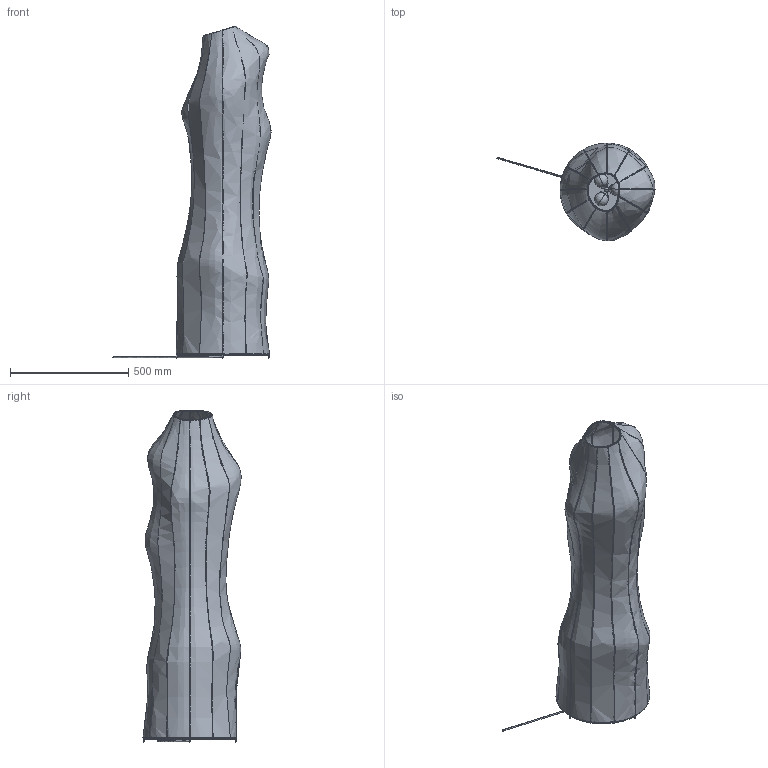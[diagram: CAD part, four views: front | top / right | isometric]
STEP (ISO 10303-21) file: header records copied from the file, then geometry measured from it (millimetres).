
FILE_DESCRIPTION(/* description */ (''),/* implementation_level */ '2;1');
FILE_NAME(/* name */ 'Dae lamps_3D_03',/* time_stamp */ '2024-06-26T08:56:36+02:00',/* author */ (''),/* organization */ (''),/* preprocessor_version */ 'ST-DEVELOPER v16.5',/* originating_system */ 'Rhino 7.37',/* authorisation */ '');
FILE_SCHEMA (('CONFIG_CONTROL_DESIGN'));
Length unit declared in the file: millimetre
Products named in the file (1): Document
Bounding box: 668.11 x 415.25 x 1403.48 mm (x, y, z)
Volume: 1896548.3 mm3; surface area: 2214689.1 mm2
Topology: 44 solids, 45 shells, 579 faces, 1441 edges, 850 vertices
Faces by surface type: bspline 312, cylinder 172, plane 95
Entity records: 53557 total; most frequent: CARTESIAN_POINT 45275, ORIENTED_EDGE 2666, EDGE_CURVE 1335, VERTEX_POINT 850, EDGE_LOOP 611, B_SPLINE_CURVE_WITH_KNOTS 602, ADVANCED_FACE 579, FACE_OUTER_BOUND 579
